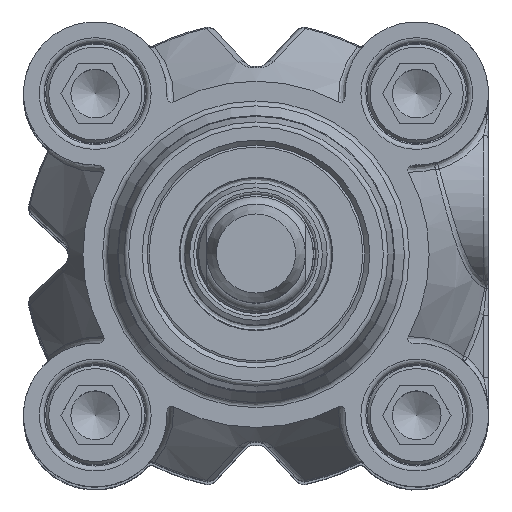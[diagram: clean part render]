
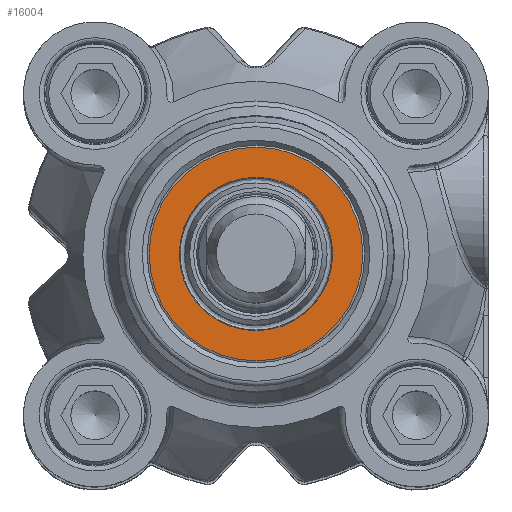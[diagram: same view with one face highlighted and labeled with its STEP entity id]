
A CAD part, top view. The second image highlights one B-rep face of the part: STEP entity #16004.
In plain terms, the highlighted planar face has unit normal (0, 0, 1).
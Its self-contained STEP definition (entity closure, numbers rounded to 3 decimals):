
#3071=PLANE('',#17466);
#3447=FACE_BOUND('',#5497,.T.);
#4229=FACE_OUTER_BOUND('',#5496,.T.);
#5496=EDGE_LOOP('',(#12946));
#5497=EDGE_LOOP('',(#12947));
#6279=CIRCLE('',#17467,10.8);
#6280=CIRCLE('',#17468,7.75);
#7580=VERTEX_POINT('',#29728);
#7581=VERTEX_POINT('',#29730);
#9460=EDGE_CURVE('',#7580,#7580,#6279,.T.);
#9461=EDGE_CURVE('',#7581,#7581,#6280,.T.);
#12946=ORIENTED_EDGE('',*,*,#9460,.T.);
#12947=ORIENTED_EDGE('',*,*,#9461,.F.);
#16004=ADVANCED_FACE('',(#4229,#3447),#3071,.F.);
#17466=AXIS2_PLACEMENT_3D('',#29727,#20707,#20708);
#17467=AXIS2_PLACEMENT_3D('',#29729,#20709,#20710);
#17468=AXIS2_PLACEMENT_3D('',#29731,#20711,#20712);
#20707=DIRECTION('center_axis',(0.,0.,-1.));
#20708=DIRECTION('ref_axis',(-1.,0.,0.));
#20709=DIRECTION('center_axis',(0.,0.,1.));
#20710=DIRECTION('ref_axis',(0.,1.,0.));
#20711=DIRECTION('center_axis',(0.,0.,1.));
#20712=DIRECTION('ref_axis',(0.,1.,0.));
#29727=CARTESIAN_POINT('Origin',(-10.8,0.,49.8));
#29728=CARTESIAN_POINT('',(0.,10.8,49.8));
#29729=CARTESIAN_POINT('Origin',(0.,0.,49.8));
#29730=CARTESIAN_POINT('',(0.,7.75,49.8));
#29731=CARTESIAN_POINT('Origin',(0.,0.,49.8));
